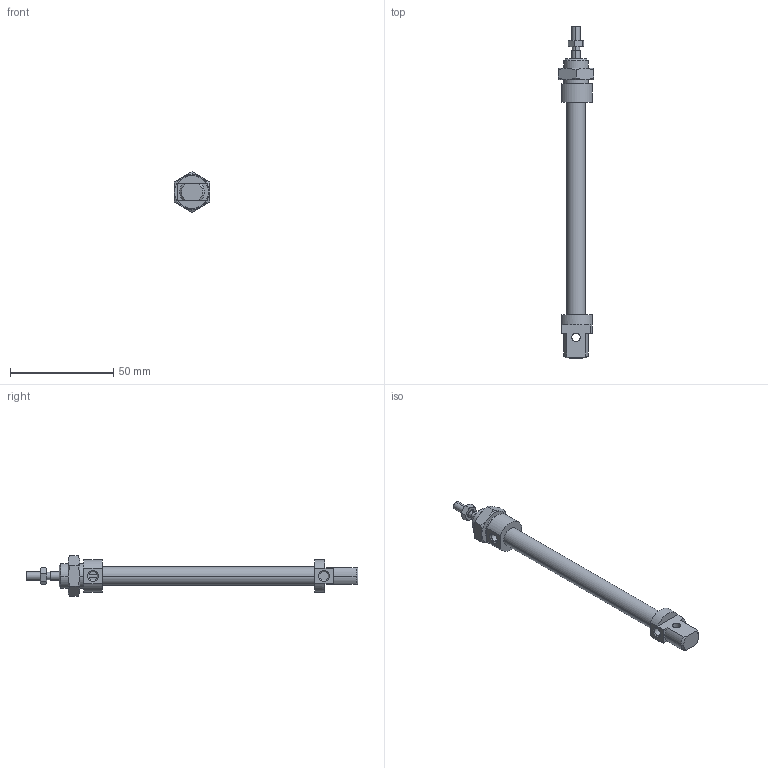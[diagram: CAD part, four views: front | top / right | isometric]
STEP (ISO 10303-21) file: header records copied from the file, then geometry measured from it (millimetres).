
FILE_DESCRIPTION((''),'2;1');
FILE_NAME('I:\DOC-EDP\Lib-3d\1200\CILINDRI\1280\1280_08_0075.stp','2003-04-07T14:43:55',('maffial1'),(''),'Autodesk Inventor (R) 6.0','Autodesk Inventor (R) 6.0','');
FILE_SCHEMA(('AUTOMOTIVE_DESIGN { 1 0 10303 214 1 1 1 1 }'));
Length unit declared in the file: millimetre
Products named in the file (5): 1280_08_0075; S1280_08_75; 1200_08_05; 1200_08_06; C1280_08_75
Assembly tree (4 placements, depth 2):
  1280_08_0075
    S1280_08_75
    1200_08_05
    1200_08_06
    C1280_08_75
Bounding box: 17 x 161 x 19.63 mm (x, y, z)
Volume: 13346 mm3; surface area: 9119.3 mm2
Topology: 4 solids, 4 shells, 117 faces, 261 edges, 158 vertices
Faces by surface type: cone 40, plane 34, cylinder 22, bspline 21
Entity records: 3582 total; most frequent: CARTESIAN_POINT 992, DIRECTION 531, ORIENTED_EDGE 522, EDGE_CURVE 261, AXIS2_PLACEMENT_3D 221, VERTEX_POINT 158, EDGE_LOOP 131, FACE_OUTER_BOUND 117
